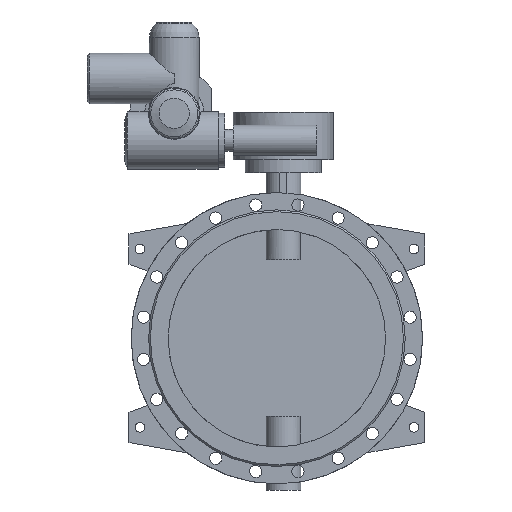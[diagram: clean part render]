
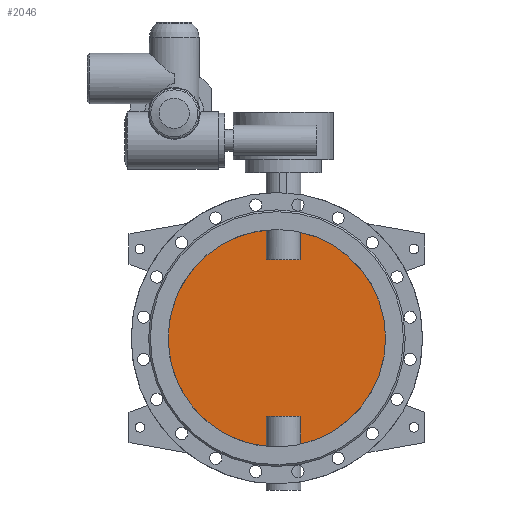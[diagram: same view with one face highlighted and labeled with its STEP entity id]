
A CAD part, front view. The second image highlights one B-rep face of the part: STEP entity #2046.
In plain terms, the highlighted planar face has unit normal (0, -1, 0).
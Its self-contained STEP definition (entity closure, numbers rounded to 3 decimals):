
#2046=ADVANCED_FACE('',(#4107),#4109,.F.);
#4107=FACE_BOUND('',#4108,.T.);
#4108=EDGE_LOOP('',(#5039,#5040,#5041,#5042,#5043,#5044,#5045,#5046));
#4109=PLANE('',#4110);
#4110=AXIS2_PLACEMENT_3D('',#4111,#4112,#4113);
#4111=CARTESIAN_POINT('',(0.,-5.,0.));
#4112=DIRECTION('',(0.,1.,0.));
#4113=DIRECTION('',(1.,0.,0.));
#5039=ORIENTED_EDGE('',*,*,#5506,.T.);
#5040=ORIENTED_EDGE('',*,*,#5511,.T.);
#5041=ORIENTED_EDGE('',*,*,#5512,.T.);
#5042=ORIENTED_EDGE('',*,*,#5513,.T.);
#5043=ORIENTED_EDGE('',*,*,#5508,.T.);
#5044=ORIENTED_EDGE('',*,*,#5514,.T.);
#5045=ORIENTED_EDGE('',*,*,#5515,.T.);
#5046=ORIENTED_EDGE('',*,*,#5516,.T.);
#5506=EDGE_CURVE('',#6323,#6324,#6325,.F.);
#5508=EDGE_CURVE('',#6328,#6326,#6329,.F.);
#5511=EDGE_CURVE('',#6324,#6333,#6334,.T.);
#5512=EDGE_CURVE('',#6333,#6335,#6336,.F.);
#5513=EDGE_CURVE('',#6335,#6328,#6337,.F.);
#5514=EDGE_CURVE('',#6326,#6338,#6339,.F.);
#5515=EDGE_CURVE('',#6338,#6340,#6341,.F.);
#5516=EDGE_CURVE('',#6340,#6323,#6342,.T.);
#6323=VERTEX_POINT('',#10258);
#6324=VERTEX_POINT('',#10259);
#6325=CIRCLE('',#10260,250.);
#6326=VERTEX_POINT('',#10264);
#6328=VERTEX_POINT('',#10354);
#6329=CIRCLE('',#10355,250.);
#6333=VERTEX_POINT('',#10469);
#6334=LINE('',#10470,#10471);
#6335=VERTEX_POINT('',#10473);
#6336=LINE('',#10474,#10475);
#6337=LINE('',#10477,#10478);
#6338=VERTEX_POINT('',#10480);
#6339=LINE('',#10481,#10482);
#6340=VERTEX_POINT('',#10484);
#6341=LINE('',#10485,#10486);
#6342=LINE('',#10488,#10489);
#10258=CARTESIAN_POINT('',(54.686,-5.,-243.946));
#10259=CARTESIAN_POINT('',(54.686,-5.,243.946));
#10260=AXIS2_PLACEMENT_3D('',#10261,#10262,#10263);
#10261=CARTESIAN_POINT('',(0.,-5.,0.));
#10262=DIRECTION('',(0.,1.,0.));
#10263=DIRECTION('',(0.219,0.,0.976));
#10264=CARTESIAN_POINT('',(-24.686,-5.,-248.778));
#10354=CARTESIAN_POINT('',(-24.686,-5.,248.778));
#10355=AXIS2_PLACEMENT_3D('',#10356,#10357,#10358);
#10356=CARTESIAN_POINT('',(0.,-5.,0.));
#10357=DIRECTION('',(0.,1.,0.));
#10358=DIRECTION('',(-0.099,0.,-0.995));
#10469=CARTESIAN_POINT('',(54.686,-5.,180.));
#10470=CARTESIAN_POINT('',(54.686,-5.,243.946));
#10471=VECTOR('',#10472,1.);
#10472=DIRECTION('',(0.,0.,-1.));
#10473=CARTESIAN_POINT('',(-24.686,-5.,180.));
#10474=CARTESIAN_POINT('',(-24.686,-5.,180.));
#10475=VECTOR('',#10476,1.);
#10476=DIRECTION('',(1.,0.,0.));
#10477=CARTESIAN_POINT('',(-24.686,-5.,248.778));
#10478=VECTOR('',#10479,1.);
#10479=DIRECTION('',(0.,0.,-1.));
#10480=CARTESIAN_POINT('',(-24.686,-5.,-180.));
#10481=CARTESIAN_POINT('',(-24.686,-5.,-180.));
#10482=VECTOR('',#10483,1.);
#10483=DIRECTION('',(0.,0.,-1.));
#10484=CARTESIAN_POINT('',(54.686,-5.,-180.));
#10485=CARTESIAN_POINT('',(54.686,-5.,-180.));
#10486=VECTOR('',#10487,1.);
#10487=DIRECTION('',(-1.,0.,0.));
#10488=CARTESIAN_POINT('',(54.686,-5.,-180.));
#10489=VECTOR('',#10490,1.);
#10490=DIRECTION('',(0.,0.,-1.));
